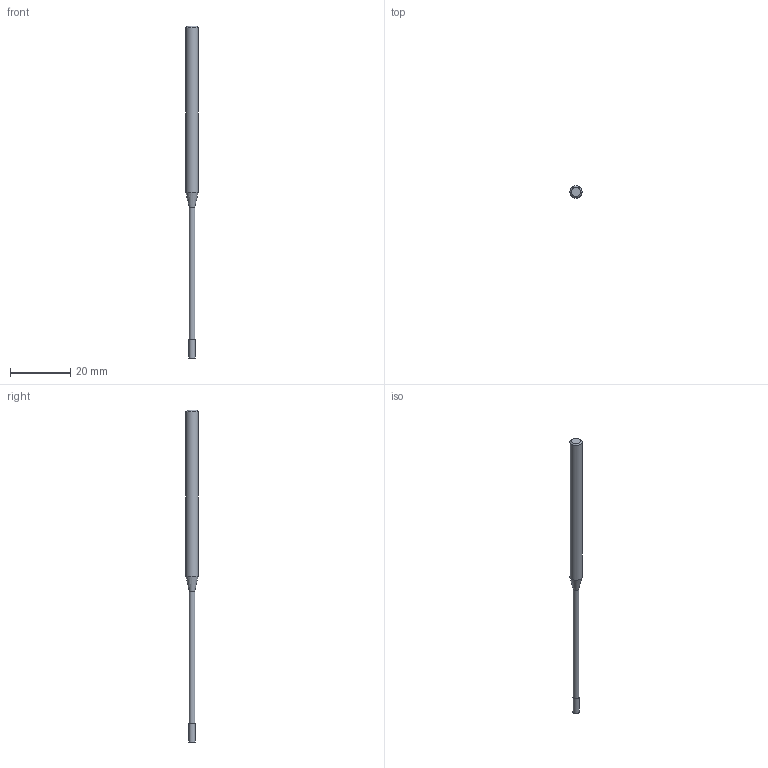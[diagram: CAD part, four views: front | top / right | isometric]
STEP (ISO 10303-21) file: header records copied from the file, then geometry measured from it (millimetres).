
FILE_DESCRIPTION((''),'2;1');
FILE_NAME('C:\Users\nsx150\Desktop\RSE230_20210427\01-00644-02050 RSE230 D2X6X50.step','2021-05-07T14:53:47',(''),(''),'STEP Write','Mastercam 2021 ... CNC Software, Inc.','');
FILE_SCHEMA(('AUTOMOTIVE_DESIGN'));
Length unit declared in the file: millimetre
Products named in the file (1): None
Bounding box: 4 x 4 x 110 mm (x, y, z)
Volume: 875.5 mm3; surface area: 1063 mm2
Topology: 2 solids, 2 shells, 9 faces, 12 edges, 7 vertices
Faces by surface type: plane 4, cylinder 3, cone 2
Full cylindrical faces by diameter (mm): 1.94 x1, 2 x1, 4 x1
Entity records: 211 total; most frequent: DIRECTION 36, CARTESIAN_POINT 25, AXIS2_PLACEMENT_3D 18, ORIENTED_EDGE 14, EDGE_LOOP 14, STYLED_ITEM 12, ADVANCED_FACE 9, FACE_BOUND 8
